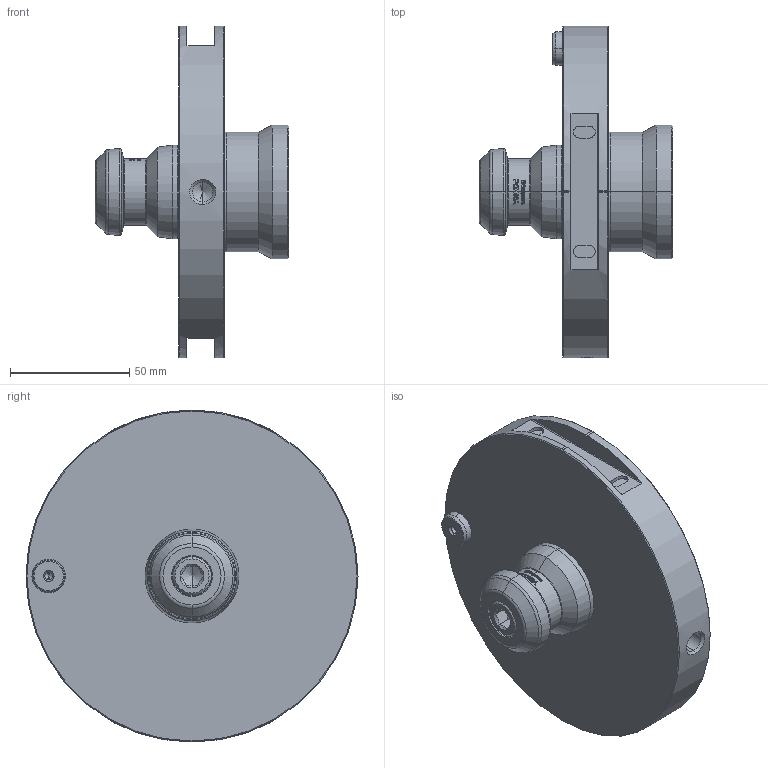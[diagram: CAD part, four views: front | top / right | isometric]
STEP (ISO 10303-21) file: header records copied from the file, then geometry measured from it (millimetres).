
FILE_DESCRIPTION (( 'STEP AP203' ), '1' );
FILE_NAME ('61P296273.STEP', '2024-04-26T06:59:39', ( '' ), ( '' ), 'SwSTEP 2.0', 'SolidWorks 2022', '' );
FILE_SCHEMA (( 'CONFIG_CONTROL_DESIGN' ));
Length unit declared in the file: millimetre
Products named in the file (5): 61P296273; 61P293306; 0030110045; 61P493325; 61P864250
Assembly tree (4 placements, depth 2):
  61P296273
    61P864250
    61P293306
    61P493325
    0030110045
Bounding box: 81 x 139 x 139 mm (x, y, z)
Volume: 344075 mm3; surface area: 64858.7 mm2
Topology: 4 solids, 4 shells, 415 faces, 1668 edges, 1297 vertices
Faces by surface type: plane 133, cone 104, cylinder 103, bspline 57, torus 18
Entity records: 21204 total; most frequent: CARTESIAN_POINT 8394, ORIENTED_EDGE 3284, DIRECTION 1953, EDGE_CURVE 1642, VERTEX_POINT 1297, AXIS2_PLACEMENT_3D 701, LINE 551, VECTOR 551
